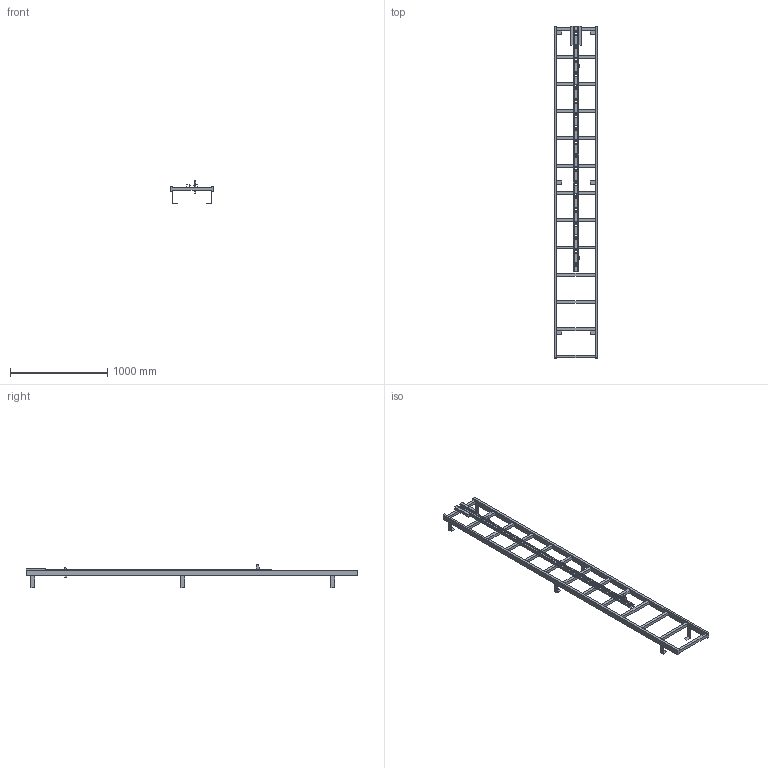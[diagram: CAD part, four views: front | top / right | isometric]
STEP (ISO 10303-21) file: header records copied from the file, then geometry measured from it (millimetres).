
FILE_DESCRIPTION((''),'2;1');
FILE_NAME('52330144','2024-12-05T07:26:58',('wep'),('HUBER SE'),'CREO PARAMETRIC BY PTC INC, 2022162','CREO PARAMETRIC BY PTC INC, 2022162','');
FILE_SCHEMA(('AUTOMOTIVE_DESIGN { 1 0 10303 214 1 1 1 1 }'));
Length unit declared in the file: millimetre
Products named in the file (1): 52330144
Bounding box: 450 x 3410 x 239 mm (x, y, z)
Volume: 14896988 mm3; surface area: 2537671.3 mm2
Topology: 2 solids, 2 shells, 232 faces, 670 edges, 438 vertices
Faces by surface type: plane 232
Entity records: 8121 total; most frequent: CARTESIAN_POINT 1342, ORIENTED_EDGE 1340, DIRECTION 1134, VECTOR 670, LINE 670, EDGE_CURVE 670, VERTEX_POINT 438, EDGE_LOOP 292
